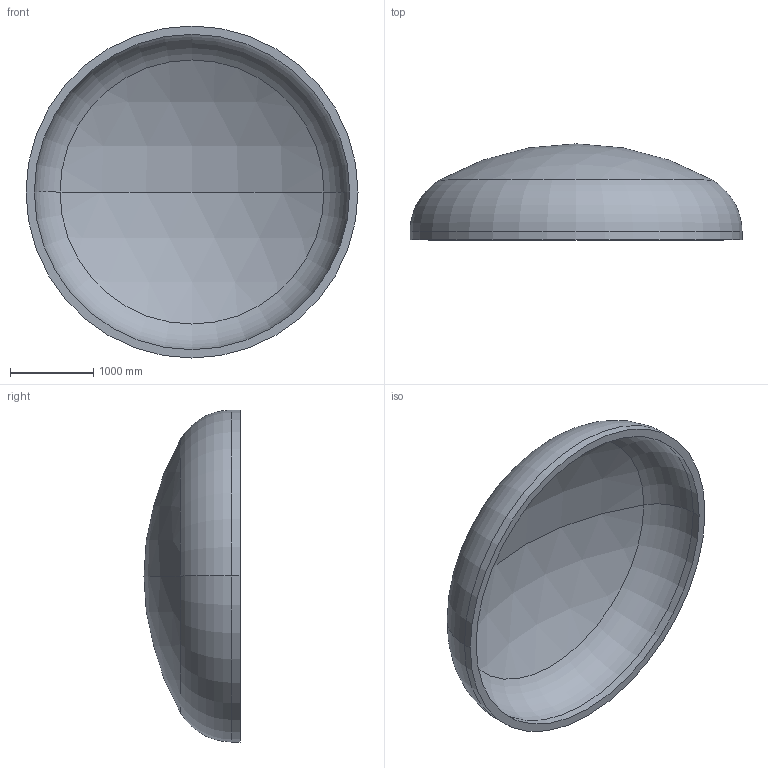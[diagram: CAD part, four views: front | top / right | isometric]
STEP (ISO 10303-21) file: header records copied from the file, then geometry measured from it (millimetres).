
FILE_DESCRIPTION (( 'STEP AP203' ), '1' );
FILE_NAME ('DIN 28013 Korbbogenform_-_Boden DIN 28013 - 4000 x 100 - I - s=100.step', '2016-07-01T22:48:33', ( '' ), ( '' ), 'SwSTEP 2.0', 'SolidWorks 2013', '' );
FILE_SCHEMA (( 'CONFIG_CONTROL_DESIGN' ));
Length unit declared in the file: millimetre
Products named in the file (1): DIN 28013 Korbbogenform_-_Boden DIN 28013 - 4000 x 100 - I - s=100
Bounding box: 4000 x 1157.01 x 4000 mm (x, y, z)
Volume: 1806256444.4 mm3; surface area: 37371281.5 mm2
Topology: 1 solids, 1 shells, 13 faces, 24 edges, 14 vertices
Faces by surface type: torus 4, cylinder 4, sphere 4, plane 1
Entity records: 407 total; most frequent: DIRECTION 72, CARTESIAN_POINT 52, ORIENTED_EDGE 48, AXIS2_PLACEMENT_3D 34, EDGE_CURVE 24, CIRCLE 20, VERTEX_POINT 14, EDGE_LOOP 14
